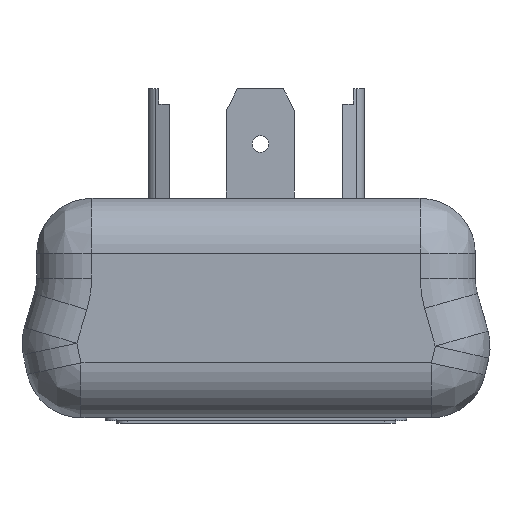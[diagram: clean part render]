
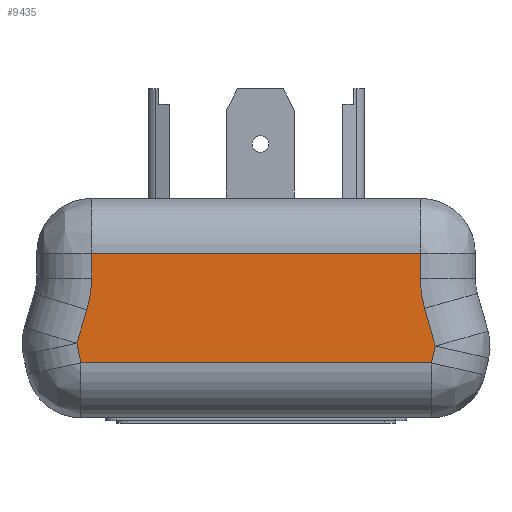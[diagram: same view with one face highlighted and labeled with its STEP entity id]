
A CAD part, front view. The second image highlights one B-rep face of the part: STEP entity #9435.
In plain terms, the highlighted planar face has unit normal (0, -1, 0).
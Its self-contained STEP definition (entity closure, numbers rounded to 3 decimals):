
#31 = EDGE_CURVE ( 'NONE', #14148, #42141, #40122, .T. ) ;
#671 = CARTESIAN_POINT ( 'NONE',  ( 15., 0., 12.691 ) ) ;
#1008 = CARTESIAN_POINT ( 'NONE',  ( -15.422, 0., 9.86 ) ) ;
#1318 = VERTEX_POINT ( 'NONE', #23457 ) ;
#2355 = CARTESIAN_POINT ( 'NONE',  ( 16.344, 0., 6.538 ) ) ;
#2406 = EDGE_CURVE ( 'NONE', #9863, #32558, #32379, .T. ) ;
#3110 = CARTESIAN_POINT ( 'NONE',  ( 0., 0., 20. ) ) ;
#3694 = CARTESIAN_POINT ( 'NONE',  ( 15., 0., 20. ) ) ;
#3865 = EDGE_CURVE ( 'NONE', #32558, #17712, #18835, .T. ) ;
#5777 = CARTESIAN_POINT ( 'NONE',  ( -16.342, 0., 6.793 ) ) ;
#6063 = VECTOR ( 'NONE', #21503, 1000. ) ;
#9435 = ADVANCED_FACE ( 'NONE', ( #18032 ), #24811, .T. ) ;
#9790 = EDGE_CURVE ( 'NONE', #30707, #1318, #21543, .T. ) ;
#9863 = VERTEX_POINT ( 'NONE', #1008 ) ;
#10195 = DIRECTION ( 'NONE',  ( -0.271, 0., 0.963 ) ) ;
#11185 = VECTOR ( 'NONE', #36261, 1000. ) ;
#11190 = ORIENTED_EDGE ( 'NONE', *, *, #31, .T. ) ;
#11333 = CARTESIAN_POINT ( 'NONE',  ( -15., 0., 12.734 ) ) ;
#11571 = CARTESIAN_POINT ( 'NONE',  ( -15.141, 0., 10.798 ) ) ;
#12285 = CARTESIAN_POINT ( 'NONE',  ( 0., 0., 5. ) ) ;
#12498 = ORIENTED_EDGE ( 'NONE', *, *, #21091, .T. ) ;
#13465 = VERTEX_POINT ( 'NONE', #29290 ) ;
#14148 = VERTEX_POINT ( 'NONE', #42868 ) ;
#14736 = VERTEX_POINT ( 'NONE', #36956 ) ;
#14875 = LINE ( 'NONE', #36843, #44641 ) ;
#15136 = EDGE_CURVE ( 'NONE', #1318, #17712, #30626, .T. ) ;
#16502 = CARTESIAN_POINT ( 'NONE',  ( 0., 0., 15. ) ) ;
#16702 = VECTOR ( 'NONE', #10195, 1000. ) ;
#17712 = VERTEX_POINT ( 'NONE', #37624 ) ;
#17911 = CARTESIAN_POINT ( 'NONE',  ( 18.438, 0., 15.857 ) ) ;
#18032 = FACE_OUTER_BOUND ( 'NONE', #34516, .T. ) ;
#18123 = VECTOR ( 'NONE', #35569, 1000. ) ;
#18372 = CARTESIAN_POINT ( 'NONE',  ( -16.342, 0., 6.793 ) ) ;
#18835 = LINE ( 'NONE', #18372, #38517 ) ;
#19039 = DIRECTION ( 'NONE',  ( -1., 0., 0. ) ) ;
#20060 = VERTEX_POINT ( 'NONE', #29437 ) ;
#20178 = CARTESIAN_POINT ( 'NONE',  ( 15., 0., 15. ) ) ;
#20620 = LINE ( 'NONE', #16502, #18123 ) ;
#21091 = EDGE_CURVE ( 'NONE', #42141, #14736, #20620, .T. ) ;
#21503 = DIRECTION ( 'NONE',  ( -0.287, 0., -0.958 ) ) ;
#21543 = LINE ( 'NONE', #17911, #11185 ) ;
#22892 = VECTOR ( 'NONE', #19039, 1000. ) ;
#23457 = CARTESIAN_POINT ( 'NONE',  ( 15.999, 0., 5. ) ) ;
#23539 = ORIENTED_EDGE ( 'NONE', *, *, #25770, .T. ) ;
#23774 = VECTOR ( 'NONE', #33126, 1000. ) ;
#24681 = LINE ( 'NONE', #39408, #16702 ) ;
#24811 = PLANE ( 'NONE',  #34280 ) ;
#25767 = CARTESIAN_POINT ( 'NONE',  ( 15.375, 0., 9.979 ) ) ;
#25770 = EDGE_CURVE ( 'NONE', #13465, #9863, #35142, .T. ) ;
#26111 = EDGE_CURVE ( 'NONE', #14736, #13465, #14875, .T. ) ;
#26280 = CARTESIAN_POINT ( 'NONE',  ( -15.422, 0., 9.86 ) ) ;
#26310 = ORIENTED_EDGE ( 'NONE', *, *, #40071, .T. ) ;
#26552 = DIRECTION ( 'NONE',  ( 0.21, 0., -0.978 ) ) ;
#27008 = ORIENTED_EDGE ( 'NONE', *, *, #2406, .T. ) ;
#28676 = DIRECTION ( 'NONE',  ( 0., -1., 0. ) ) ;
#28742 = CARTESIAN_POINT ( 'NONE',  ( -15.422, 0., 9.86 ) ) ;
#29148 = DIRECTION ( 'NONE',  ( 0., 0., -1. ) ) ;
#29290 = CARTESIAN_POINT ( 'NONE',  ( -15., 0., 12.734 ) ) ;
#29437 = CARTESIAN_POINT ( 'NONE',  ( 15.375, 0., 9.979 ) ) ;
#29907 = CARTESIAN_POINT ( 'NONE',  ( -15., 0., 11.755 ) ) ;
#30626 = LINE ( 'NONE', #12285, #22892 ) ;
#30707 = VERTEX_POINT ( 'NONE', #2355 ) ;
#32379 = LINE ( 'NONE', #28742, #6063 ) ;
#32558 = VERTEX_POINT ( 'NONE', #5777 ) ;
#33126 = DIRECTION ( 'NONE',  ( 0., 0., 1. ) ) ;
#33742 = CARTESIAN_POINT ( 'NONE',  ( 15., 0., 11.77 ) ) ;
#33996 = EDGE_CURVE ( 'NONE', #20060, #14148, #36445, .T. ) ;
#34280 = AXIS2_PLACEMENT_3D ( 'NONE', #3110, #28676, #29148 ) ;
#34516 = EDGE_LOOP ( 'NONE', ( #46375, #44181, #34932, #26310, #41340, #11190, #12498, #38101, #23539, #27008 ) ) ;
#34932 = ORIENTED_EDGE ( 'NONE', *, *, #9790, .F. ) ;
#35142 = B_SPLINE_CURVE_WITH_KNOTS ( 'NONE', 3,
 ( #11333, #29907, #11571, #26280 ),
 .UNSPECIFIED., .F., .F.,
 ( 4, 4 ),
 ( 0., 1. ),
 .UNSPECIFIED. ) ;
#35569 = DIRECTION ( 'NONE',  ( -1., 0., 0. ) ) ;
#36261 = DIRECTION ( 'NONE',  ( -0.219, 0., -0.976 ) ) ;
#36445 = B_SPLINE_CURVE_WITH_KNOTS ( 'NONE', 3,
 ( #25767, #44617, #33742, #671 ),
 .UNSPECIFIED., .F., .F.,
 ( 4, 4 ),
 ( 0., 1. ),
 .UNSPECIFIED. ) ;
#36843 = CARTESIAN_POINT ( 'NONE',  ( -15., 0., 20. ) ) ;
#36956 = CARTESIAN_POINT ( 'NONE',  ( -15., 0., 15. ) ) ;
#37624 = CARTESIAN_POINT ( 'NONE',  ( -15.958, 0., 5. ) ) ;
#38101 = ORIENTED_EDGE ( 'NONE', *, *, #26111, .T. ) ;
#38517 = VECTOR ( 'NONE', #26552, 1000. ) ;
#39408 = CARTESIAN_POINT ( 'NONE',  ( 16.344, 0., 6.538 ) ) ;
#40071 = EDGE_CURVE ( 'NONE', #30707, #20060, #24681, .T. ) ;
#40122 = LINE ( 'NONE', #3694, #23774 ) ;
#41340 = ORIENTED_EDGE ( 'NONE', *, *, #33996, .T. ) ;
#41442 = DIRECTION ( 'NONE',  ( 0., 0., -1. ) ) ;
#42141 = VERTEX_POINT ( 'NONE', #20178 ) ;
#42868 = CARTESIAN_POINT ( 'NONE',  ( 15., 0., 12.691 ) ) ;
#44181 = ORIENTED_EDGE ( 'NONE', *, *, #15136, .F. ) ;
#44617 = CARTESIAN_POINT ( 'NONE',  ( 15.125, 0., 10.866 ) ) ;
#44641 = VECTOR ( 'NONE', #41442, 1000. ) ;
#46375 = ORIENTED_EDGE ( 'NONE', *, *, #3865, .T. ) ;
